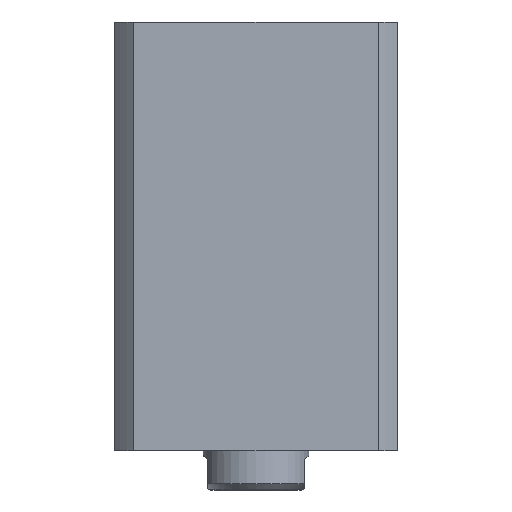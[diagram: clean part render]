
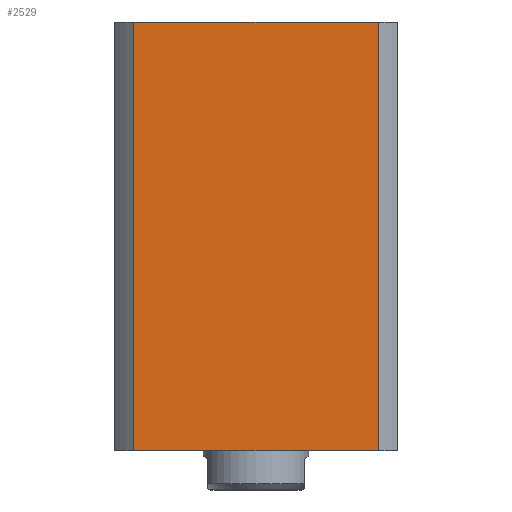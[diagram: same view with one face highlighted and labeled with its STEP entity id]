
A CAD part, front view. The second image highlights one B-rep face of the part: STEP entity #2529.
In plain terms, the highlighted planar face has unit normal (0, -1, 0) as drawn and (0, 1, 0) by its records, which use the part's own axes.
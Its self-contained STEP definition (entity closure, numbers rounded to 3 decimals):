
#1560 = LINE ( 'NONE', #9208, #12524 ) ;
#1728 = CARTESIAN_POINT ( 'NONE',  ( -47., 47., 0. ) ) ;
#2529 = ADVANCED_FACE ( 'NONE', ( #4924 ), #9885, .F. ) ;
#2922 = CARTESIAN_POINT ( 'NONE',  ( -40.435, 47., 0. ) ) ;
#3048 = VERTEX_POINT ( 'NONE', #17214 ) ;
#3111 = ORIENTED_EDGE ( 'NONE', *, *, #7499, .T. ) ;
#3699 = VERTEX_POINT ( 'NONE', #16530 ) ;
#3790 = LINE ( 'NONE', #4734, #10661 ) ;
#4681 = EDGE_LOOP ( 'NONE', ( #16188, #3111, #11702, #15981 ) ) ;
#4734 = CARTESIAN_POINT ( 'NONE',  ( -40.435, 47., -2858. ) ) ;
#4924 = FACE_OUTER_BOUND ( 'NONE', #4681, .T. ) ;
#5096 = VECTOR ( 'NONE', #16599, 1000. ) ;
#5445 = EDGE_CURVE ( 'NONE', #3048, #16858, #8772, .T. ) ;
#7469 = LINE ( 'NONE', #1728, #14312 ) ;
#7499 = EDGE_CURVE ( 'NONE', #3699, #9110, #7469, .T. ) ;
#8088 = DIRECTION ( 'NONE',  ( 0., 0., -1. ) ) ;
#8388 = CARTESIAN_POINT ( 'NONE',  ( -47., 47., 142. ) ) ;
#8772 = LINE ( 'NONE', #8388, #5096 ) ;
#9110 = VERTEX_POINT ( 'NONE', #2922 ) ;
#9208 = CARTESIAN_POINT ( 'NONE',  ( 40.435, 47., -2858. ) ) ;
#9642 = CARTESIAN_POINT ( 'NONE',  ( -47., 47., 142. ) ) ;
#9885 = PLANE ( 'NONE',  #13192 ) ;
#9902 = EDGE_CURVE ( 'NONE', #16858, #9110, #3790, .T. ) ;
#10588 = DIRECTION ( 'NONE',  ( 0., 0., 1. ) ) ;
#10661 = VECTOR ( 'NONE', #14269, 1000. ) ;
#11333 = DIRECTION ( 'NONE',  ( -1., 0., 0. ) ) ;
#11702 = ORIENTED_EDGE ( 'NONE', *, *, #9902, .F. ) ;
#12524 = VECTOR ( 'NONE', #10588, 1000. ) ;
#13192 = AXIS2_PLACEMENT_3D ( 'NONE', #9642, #16539, #8088 ) ;
#14145 = CARTESIAN_POINT ( 'NONE',  ( -40.435, 47., 142. ) ) ;
#14269 = DIRECTION ( 'NONE',  ( 0., 0., -1. ) ) ;
#14312 = VECTOR ( 'NONE', #11333, 1000. ) ;
#15141 = EDGE_CURVE ( 'NONE', #3699, #3048, #1560, .T. ) ;
#15981 = ORIENTED_EDGE ( 'NONE', *, *, #5445, .F. ) ;
#16188 = ORIENTED_EDGE ( 'NONE', *, *, #15141, .F. ) ;
#16530 = CARTESIAN_POINT ( 'NONE',  ( 40.435, 47., 0. ) ) ;
#16539 = DIRECTION ( 'NONE',  ( 0., -1., 0. ) ) ;
#16599 = DIRECTION ( 'NONE',  ( -1., 0., 0. ) ) ;
#16858 = VERTEX_POINT ( 'NONE', #14145 ) ;
#17214 = CARTESIAN_POINT ( 'NONE',  ( 40.435, 47., 142. ) ) ;
